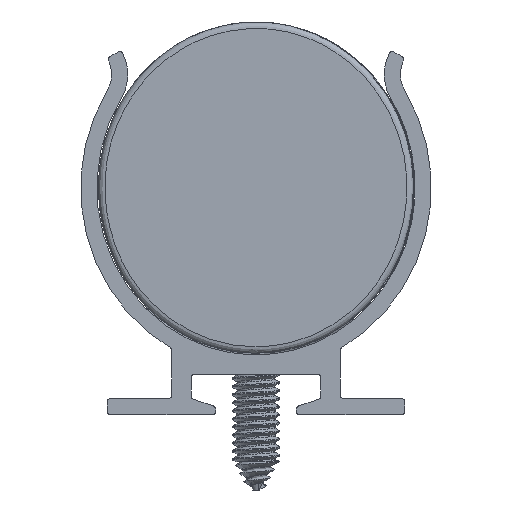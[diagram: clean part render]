
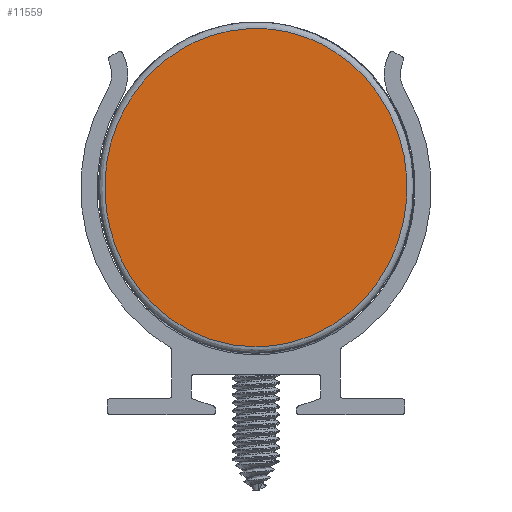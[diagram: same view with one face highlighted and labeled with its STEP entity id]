
A CAD part, front view. The second image highlights one B-rep face of the part: STEP entity #11559.
In plain terms, the highlighted planar face has unit normal (0, -1, 0).
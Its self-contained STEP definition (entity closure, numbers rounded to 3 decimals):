
#429=PLANE('',#12781);
#1223=FACE_OUTER_BOUND('',#1950,.T.);
#1950=EDGE_LOOP('',(#9768));
#3022=B_SPLINE_CURVE_WITH_KNOTS('',3,(#23236,#23237,#23238,#23239,#23240,
#23241,#23242,#23243,#23244,#23245,#23246,#23247,#23248,#23249,#23250,#23251,
#23252),.UNSPECIFIED.,.T.,.F.,(4,1,1,1,1,1,1,1,1,1,1,1,1,1,4),(-3.142,
-2.693,-2.356,-2.244,-1.346,
-0.898,-0.729,-0.449,0.15,
0.449,0.898,1.346,2.244,2.693,
3.142),.UNSPECIFIED.);
#5367=VERTEX_POINT('',#23216);
#6891=EDGE_CURVE('',#5367,#5367,#3022,.T.);
#9768=ORIENTED_EDGE('',*,*,#6891,.F.);
#11559=ADVANCED_FACE('',(#1223),#429,.T.);
#12781=AXIS2_PLACEMENT_3D('',#23274,#15429,#15430);
#15429=DIRECTION('center_axis',(0.,-1.,0.));
#15430=DIRECTION('ref_axis',(1.,0.,0.));
#23216=CARTESIAN_POINT('',(0.,-2.,0.4));
#23236=CARTESIAN_POINT('Ctrl Pts',(0.,-2.,0.4));
#23237=CARTESIAN_POINT('Ctrl Pts',(-1.436,-2.,0.4));
#23238=CARTESIAN_POINT('Ctrl Pts',(-3.951,-2.,1.026));
#23239=CARTESIAN_POINT('Ctrl Pts',(-6.25,-2.,2.808));
#23240=CARTESIAN_POINT('Ctrl Pts',(-9.017,-2.,6.136));
#23241=CARTESIAN_POINT('Ctrl Pts',(-10.036,-2.,11.107));
#23242=CARTESIAN_POINT('Ctrl Pts',(-8.009,-2.,15.644));
#23243=CARTESIAN_POINT('Ctrl Pts',(-6.115,-2.,17.81));
#23244=CARTESIAN_POINT('Ctrl Pts',(-3.376,-2.,19.814));
#23245=CARTESIAN_POINT('Ctrl Pts',(0.531,-2.,20.455));
#23246=CARTESIAN_POINT('Ctrl Pts',(4.68,-2.,19.057));
#23247=CARTESIAN_POINT('Ctrl Pts',(7.636,-2.,16.483));
#23248=CARTESIAN_POINT('Ctrl Pts',(10.033,-2.,11.106));
#23249=CARTESIAN_POINT('Ctrl Pts',(8.782,-2.,4.989));
#23250=CARTESIAN_POINT('Ctrl Pts',(4.294,-2.,1.113));
#23251=CARTESIAN_POINT('Ctrl Pts',(1.436,-2.,0.4));
#23252=CARTESIAN_POINT('Ctrl Pts',(0.,-2.,0.4));
#23274=CARTESIAN_POINT('Origin',(0.,-2.,10.273));
